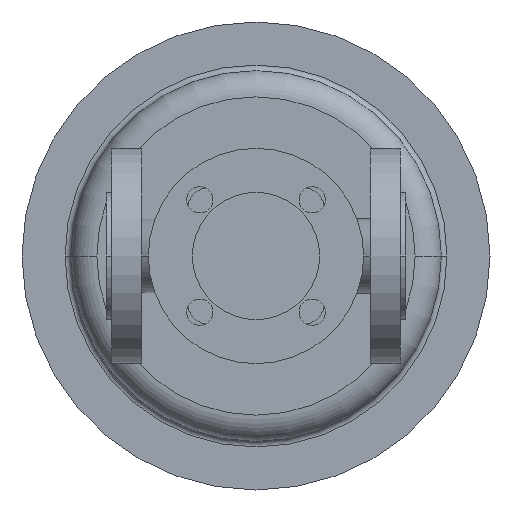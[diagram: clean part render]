
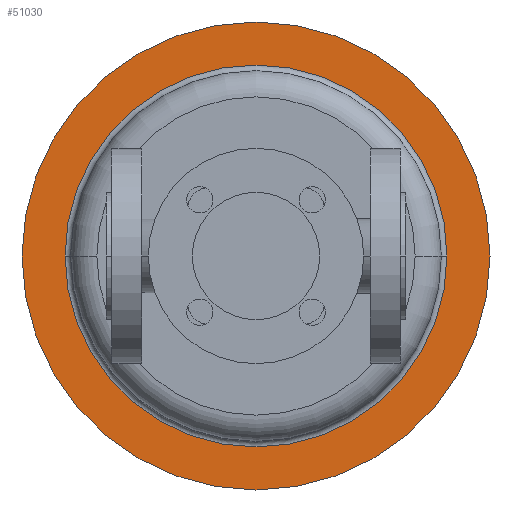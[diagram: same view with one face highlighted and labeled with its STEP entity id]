
A CAD part, front view. The second image highlights one B-rep face of the part: STEP entity #51030.
In plain terms, the highlighted planar face has unit normal (0, -1, 0).
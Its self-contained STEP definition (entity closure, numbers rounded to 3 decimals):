
#36340=CARTESIAN_POINT('',(-45.,387.,0.));
#36350=VERTEX_POINT('',#36340);
#36380=CARTESIAN_POINT('',(80.,387.,0.));
#36390=DIRECTION('',(0.,1.,0.));
#36400=DIRECTION('',(1.,0.,0.));
#36410=AXIS2_PLACEMENT_3D('',#36380,#36390,#36400);
#36420=CIRCLE('',#36410,125.);
#36430=CARTESIAN_POINT('',(205.,387.,0.));
#36440=VERTEX_POINT('',#36430);
#36450=EDGE_CURVE('',#36440,#36350,#36420,.T.);
#36770=CARTESIAN_POINT('',(182.,387.,0.));
#36780=VERTEX_POINT('',#36770);
#36810=CARTESIAN_POINT('',(80.,387.,0.));
#36820=DIRECTION('',(0.,1.,0.));
#36830=DIRECTION('',(1.,0.,0.));
#36840=AXIS2_PLACEMENT_3D('',#36810,#36820,#36830);
#36850=CIRCLE('',#36840,102.);
#36860=CARTESIAN_POINT('',(-22.,387.,0.));
#36870=VERTEX_POINT('',#36860);
#36880=EDGE_CURVE('',#36780,#36870,#36850,.T.);
#50880=CARTESIAN_POINT('',(193.5,387.,0.));
#50890=DIRECTION('',(0.,-1.,0.));
#50900=DIRECTION('',(-1.,0.,0.));
#50910=AXIS2_PLACEMENT_3D('',#50880,#50890,#50900);
#50920=PLANE('',#50910);
#50930=EDGE_CURVE('',#36350,#36440,#36420,.T.);
#50940=ORIENTED_EDGE('',*,*,#50930,.F.);
#50950=ORIENTED_EDGE('',*,*,#36450,.F.);
#50960=EDGE_LOOP('',(#50950,#50940));
#50970=FACE_OUTER_BOUND('',#50960,.T.);
#50980=ORIENTED_EDGE('',*,*,#36880,.T.);
#50990=EDGE_CURVE('',#36870,#36780,#36850,.T.);
#51000=ORIENTED_EDGE('',*,*,#50990,.T.);
#51010=EDGE_LOOP('',(#51000,#50980));
#51020=FACE_BOUND('',#51010,.T.);
#51030=ADVANCED_FACE('',(#50970,#51020),#50920,.T.);
